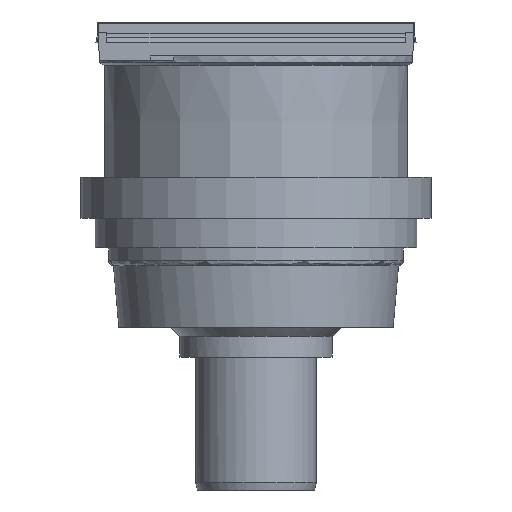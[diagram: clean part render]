
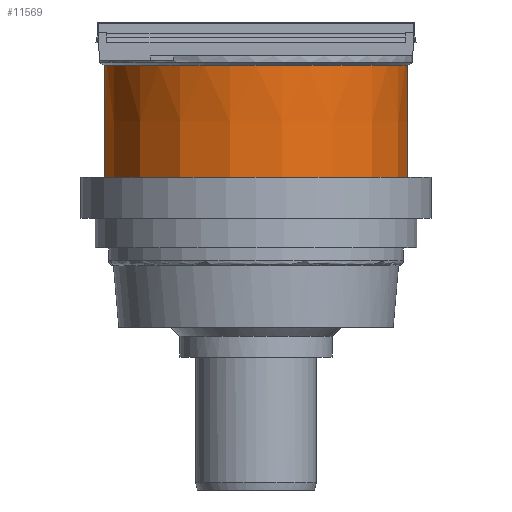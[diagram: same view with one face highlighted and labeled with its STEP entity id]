
A CAD part, left-side view. The second image highlights one B-rep face of the part: STEP entity #11569.
In plain terms, the highlighted conical face has half-angle 0.124 degrees and reference radius 1000 mm.
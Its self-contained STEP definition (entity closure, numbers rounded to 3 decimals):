
#51=CONICAL_SURFACE('',#12736,1000.,0.002);
#2601=FACE_BOUND('',#3894,.T.);
#3221=FACE_OUTER_BOUND('',#3893,.T.);
#3893=EDGE_LOOP('',(#10149));
#3894=EDGE_LOOP('',(#10150));
#4323=CIRCLE('',#12735,62.535);
#4324=CIRCLE('',#12737,62.685);
#5346=VERTEX_POINT('',#26548);
#5347=VERTEX_POINT('',#26551);
#6945=EDGE_CURVE('',#5346,#5346,#4323,.T.);
#6946=EDGE_CURVE('',#5347,#5347,#4324,.F.);
#10149=ORIENTED_EDGE('',*,*,#6946,.F.);
#10150=ORIENTED_EDGE('',*,*,#6945,.T.);
#11569=ADVANCED_FACE('',(#3221,#2601),#51,.T.);
#12735=AXIS2_PLACEMENT_3D('',#26549,#15852,#15853);
#12736=AXIS2_PLACEMENT_3D('',#26550,#15854,#15855);
#12737=AXIS2_PLACEMENT_3D('',#26552,#15856,#15857);
#15852=DIRECTION('center_axis',(0.,1.,0.));
#15853=DIRECTION('ref_axis',(0.,0.,1.));
#15854=DIRECTION('center_axis',(0.,1.,0.));
#15855=DIRECTION('ref_axis',(0.,0.,1.));
#15856=DIRECTION('center_axis',(0.,-1.,0.));
#15857=DIRECTION('ref_axis',(0.,0.,1.));
#26548=CARTESIAN_POINT('',(0.,4.8,62.535));
#26549=CARTESIAN_POINT('Origin',(0.,4.8,0.));
#26550=CARTESIAN_POINT('Origin',(0.,434659.648,0.));
#26551=CARTESIAN_POINT('',(62.685,74.347,0.));
#26552=CARTESIAN_POINT('Origin',(0.,74.347,0.));
